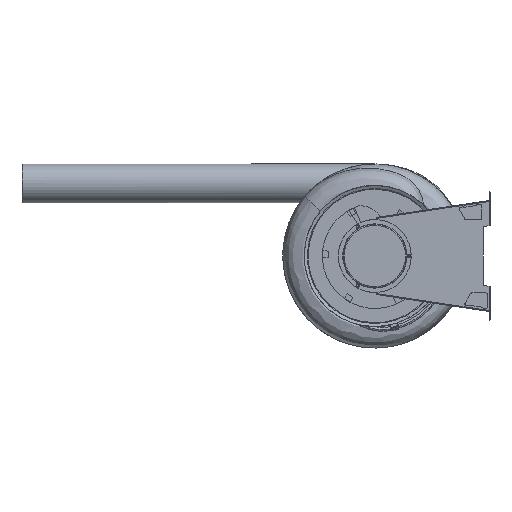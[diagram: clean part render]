
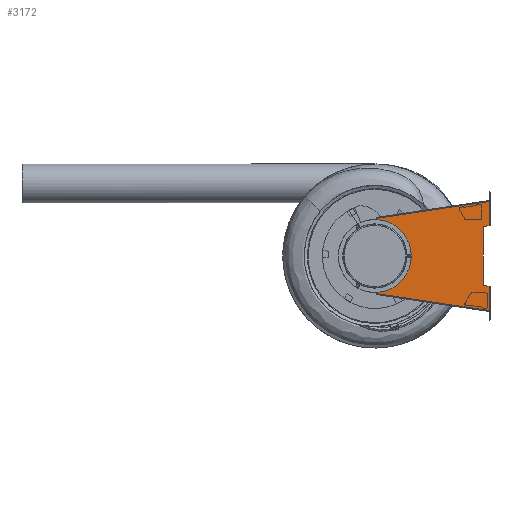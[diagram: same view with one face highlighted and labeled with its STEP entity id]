
A CAD part, left-side view. The second image highlights one B-rep face of the part: STEP entity #3172.
In plain terms, the highlighted planar face has unit normal (-1, 0, 0).
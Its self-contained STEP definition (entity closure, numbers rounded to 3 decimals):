
#2034=DIRECTION('',(0.,0.,1.));
#2035=VECTOR('',#2034,250.);
#2036=CARTESIAN_POINT('',(-1324.,-461.142,-125.));
#2037=LINE('',#2036,#2035);
#2050=CARTESIAN_POINT('',(-1324.,0.,0.));
#2051=DIRECTION('',(-1.,0.,0.));
#2052=DIRECTION('',(0.,1.,0.));
#2053=AXIS2_PLACEMENT_3D('',#2050,#2051,#2052);
#2055=CARTESIAN_POINT('',(-1324.,0.,0.));
#2056=DIRECTION('',(-1.,0.,0.));
#2057=DIRECTION('',(0.,-1.,0.));
#2058=AXIS2_PLACEMENT_3D('',#2055,#2056,#2057);
#2060=DIRECTION('',(0.,-0.989,0.149));
#2061=VECTOR('',#2060,3.105);
#2062=CARTESIAN_POINT('',(-1324.,23.07,153.273));
#2063=LINE('',#2062,#2061);
#2064=DIRECTION('',(0.,-0.989,0.149));
#2065=VECTOR('',#2064,6.895);
#2066=CARTESIAN_POINT('',(-1324.,20.,153.736));
#2067=LINE('',#2066,#2065);
#2068=DIRECTION('',(0.,-0.989,0.149));
#2069=VECTOR('',#2068,20.342);
#2070=CARTESIAN_POINT('',(-1324.,13.182,154.762));
#2071=LINE('',#2070,#2069);
#2072=CARTESIAN_POINT('',(-1324.,-21.767,160.022));
#2073=DIRECTION('',(1.,0.,0.));
#2074=DIRECTION('',(0.,0.989,-0.149));
#2075=AXIS2_PLACEMENT_3D('',#2072,#2073,#2074);
#2077=DIRECTION('',(0.,-0.989,0.149));
#2078=VECTOR('',#2077,480.777);
#2079=CARTESIAN_POINT('',(-1324.,-6.769,159.787));
#2080=LINE('',#2079,#2078);
#2081=DIRECTION('',(0.,-0.989,0.149));
#2082=VECTOR('',#2081,3.853);
#2083=CARTESIAN_POINT('',(-1324.,-482.19,231.347));
#2084=LINE('',#2083,#2082);
#2085=DIRECTION('',(0.,0.,-1.));
#2086=VECTOR('',#2085,102.537);
#2087=CARTESIAN_POINT('',(-1324.,-486.,231.92));
#2088=LINE('',#2087,#2086);
#2089=DIRECTION('',(0.,0.985,-0.174));
#2090=VECTOR('',#2089,25.242);
#2091=CARTESIAN_POINT('',(-1324.,-486.,129.383));
#2092=LINE('',#2091,#2090);
#2093=DIRECTION('',(0.,0.985,0.174));
#2094=VECTOR('',#2093,25.242);
#2095=CARTESIAN_POINT('',(-1324.,-486.,-129.383));
#2096=LINE('',#2095,#2094);
#2097=DIRECTION('',(0.,0.,-1.));
#2098=VECTOR('',#2097,102.537);
#2099=CARTESIAN_POINT('',(-1324.,-486.,-129.383));
#2100=LINE('',#2099,#2098);
#2101=DIRECTION('',(0.,0.989,0.149));
#2102=VECTOR('',#2101,3.853);
#2103=CARTESIAN_POINT('',(-1324.,-486.,-231.92));
#2104=LINE('',#2103,#2102);
#2105=DIRECTION('',(0.,0.989,0.149));
#2106=VECTOR('',#2105,480.777);
#2107=CARTESIAN_POINT('',(-1324.,-482.19,-231.347));
#2108=LINE('',#2107,#2106);
#2109=CARTESIAN_POINT('',(-1324.,-21.767,-160.022));
#2110=DIRECTION('',(1.,0.,0.));
#2111=DIRECTION('',(0.,1.,0.016));
#2112=AXIS2_PLACEMENT_3D('',#2109,#2110,#2111);
#2114=DIRECTION('',(0.,-0.989,-0.149));
#2115=VECTOR('',#2114,20.342);
#2116=CARTESIAN_POINT('',(-1324.,13.182,-154.762));
#2117=LINE('',#2116,#2115);
#2118=DIRECTION('',(0.,-0.989,-0.149));
#2119=VECTOR('',#2118,6.895);
#2120=CARTESIAN_POINT('',(-1324.,20.,-153.736));
#2121=LINE('',#2120,#2119);
#2122=DIRECTION('',(0.,0.989,0.149));
#2123=VECTOR('',#2122,3.105);
#2124=CARTESIAN_POINT('',(-1324.,20.,-153.736));
#2125=LINE('',#2124,#2123);
#2135=CARTESIAN_POINT('',(-1324.,0.,0.));
#2136=DIRECTION('',(-1.,0.,0.));
#2137=DIRECTION('',(0.,0.149,0.989));
#2138=AXIS2_PLACEMENT_3D('',#2135,#2136,#2137);
#2796=CARTESIAN_POINT('',(-1324.,-33.,0.));
#2797=CARTESIAN_POINT('',(-1324.,33.,0.));
#2798=VERTEX_POINT('',#2796);
#2799=VERTEX_POINT('',#2797);
#2801=CARTESIAN_POINT('',(-1324.,23.07,-153.273));
#2803=VERTEX_POINT('',#2801);
#2820=CARTESIAN_POINT('',(-1324.,-486.,-231.92));
#2821=CARTESIAN_POINT('',(-1324.,-482.19,-231.347));
#2822=VERTEX_POINT('',#2820);
#2823=VERTEX_POINT('',#2821);
#2874=CARTESIAN_POINT('',(-1324.,-486.,-129.383));
#2875=VERTEX_POINT('',#2874);
#2877=CARTESIAN_POINT('',(-1324.,23.07,153.273));
#2879=VERTEX_POINT('',#2877);
#2896=CARTESIAN_POINT('',(-1324.,-486.,231.92));
#2897=CARTESIAN_POINT('',(-1324.,-482.19,231.347));
#2898=VERTEX_POINT('',#2896);
#2899=VERTEX_POINT('',#2897);
#2937=CARTESIAN_POINT('',(-1324.,-486.,129.383));
#2938=VERTEX_POINT('',#2937);
#2943=CARTESIAN_POINT('',(-1324.,-461.142,-125.));
#2944=VERTEX_POINT('',#2943);
#2949=CARTESIAN_POINT('',(-1324.,-461.142,125.));
#2950=VERTEX_POINT('',#2949);
#2959=CARTESIAN_POINT('',(-1324.,20.,-153.736));
#2960=CARTESIAN_POINT('',(-1324.,13.182,-154.762));
#2961=VERTEX_POINT('',#2959);
#2962=VERTEX_POINT('',#2960);
#2968=CARTESIAN_POINT('',(-1324.,-6.769,-159.787));
#2969=VERTEX_POINT('',#2968);
#2978=CARTESIAN_POINT('',(-1324.,20.,153.736));
#2979=CARTESIAN_POINT('',(-1324.,13.182,154.762));
#2980=VERTEX_POINT('',#2978);
#2981=VERTEX_POINT('',#2979);
#2987=CARTESIAN_POINT('',(-1324.,-6.769,159.787));
#2988=VERTEX_POINT('',#2987);
#3007=CARTESIAN_POINT('',(-1324.,-6.934,-157.79));
#3008=VERTEX_POINT('',#3007);
#3011=CARTESIAN_POINT('',(-1324.,-6.934,157.79));
#3012=VERTEX_POINT('',#3011);
#3124=CARTESIAN_POINT('',(-1324.,0.,0.));
#3125=DIRECTION('',(-1.,0.,0.));
#3126=DIRECTION('',(0.,0.,1.));
#3127=AXIS2_PLACEMENT_3D('',#3124,#3125,#3126);
#3128=PLANE('',#3127);
#3130=ORIENTED_EDGE('',*,*,#3129,.F.);
#3132=ORIENTED_EDGE('',*,*,#3131,.T.);
#3134=ORIENTED_EDGE('',*,*,#3133,.T.);
#3136=ORIENTED_EDGE('',*,*,#3135,.T.);
#3138=ORIENTED_EDGE('',*,*,#3137,.T.);
#3140=ORIENTED_EDGE('',*,*,#3139,.T.);
#3142=ORIENTED_EDGE('',*,*,#3141,.T.);
#3144=ORIENTED_EDGE('',*,*,#3143,.T.);
#3146=ORIENTED_EDGE('',*,*,#3145,.T.);
#3147=ORIENTED_EDGE('',*,*,#3107,.F.);
#3149=ORIENTED_EDGE('',*,*,#3148,.F.);
#3151=ORIENTED_EDGE('',*,*,#3150,.T.);
#3153=ORIENTED_EDGE('',*,*,#3152,.T.);
#3155=ORIENTED_EDGE('',*,*,#3154,.T.);
#3157=ORIENTED_EDGE('',*,*,#3156,.T.);
#3159=ORIENTED_EDGE('',*,*,#3158,.F.);
#3161=ORIENTED_EDGE('',*,*,#3160,.F.);
#3163=ORIENTED_EDGE('',*,*,#3162,.T.);
#3164=EDGE_LOOP('',(#3130,#3132,#3134,#3136,#3138,#3140,#3142,#3144,#3146,#3147,
#3149,#3151,#3153,#3155,#3157,#3159,#3161,#3163));
#3165=FACE_OUTER_BOUND('',#3164,.F.);
#3167=ORIENTED_EDGE('',*,*,#3166,.T.);
#3169=ORIENTED_EDGE('',*,*,#3168,.T.);
#3170=EDGE_LOOP('',(#3167,#3169));
#3171=FACE_BOUND('',#3170,.F.);
#2054=CIRCLE('',#2053,33.);
#2059=CIRCLE('',#2058,33.);
#2076=CIRCLE('',#2075,15.);
#2113=CIRCLE('',#2112,15.);
#2139=CIRCLE('',#2138,155.);
#3107=EDGE_CURVE('',#2944,#2950,#2037,.T.);
#3129=EDGE_CURVE('',#2879,#2803,#2139,.T.);
#3131=EDGE_CURVE('',#2879,#2980,#2063,.T.);
#3133=EDGE_CURVE('',#2980,#2981,#2067,.T.);
#3135=EDGE_CURVE('',#2981,#3012,#2071,.T.);
#3137=EDGE_CURVE('',#3012,#2988,#2076,.T.);
#3139=EDGE_CURVE('',#2988,#2899,#2080,.T.);
#3141=EDGE_CURVE('',#2899,#2898,#2084,.T.);
#3143=EDGE_CURVE('',#2898,#2938,#2088,.T.);
#3145=EDGE_CURVE('',#2938,#2950,#2092,.T.);
#3148=EDGE_CURVE('',#2875,#2944,#2096,.T.);
#3150=EDGE_CURVE('',#2875,#2822,#2100,.T.);
#3152=EDGE_CURVE('',#2822,#2823,#2104,.T.);
#3154=EDGE_CURVE('',#2823,#2969,#2108,.T.);
#3156=EDGE_CURVE('',#2969,#3008,#2113,.T.);
#3158=EDGE_CURVE('',#2962,#3008,#2117,.T.);
#3160=EDGE_CURVE('',#2961,#2962,#2121,.T.);
#3162=EDGE_CURVE('',#2961,#2803,#2125,.T.);
#3166=EDGE_CURVE('',#2799,#2798,#2054,.T.);
#3168=EDGE_CURVE('',#2798,#2799,#2059,.T.);
#3172=ADVANCED_FACE('',(#3165,#3171),#3128,.T.);
